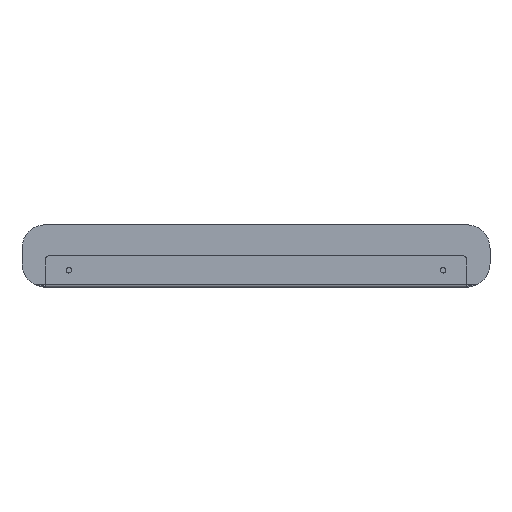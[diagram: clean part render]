
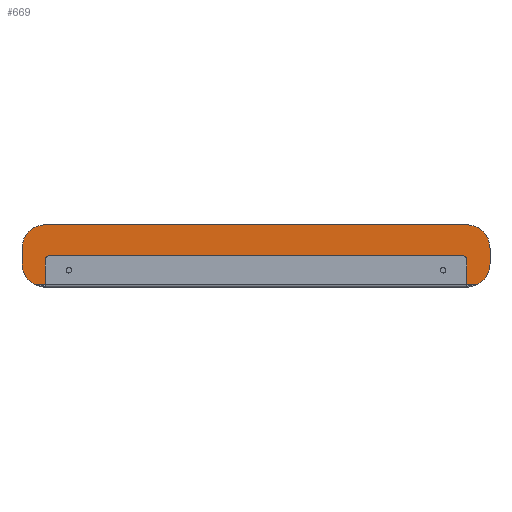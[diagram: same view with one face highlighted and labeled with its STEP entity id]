
A CAD part, top view. The second image highlights one B-rep face of the part: STEP entity #669.
In plain terms, the highlighted planar face has unit normal (0, 0, 1).
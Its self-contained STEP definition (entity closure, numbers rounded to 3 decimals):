
#50 = DIRECTION ( 'NONE',  ( 0., 1., 0. ) ) ;
#60 = EDGE_CURVE ( 'NONE', #2717, #1228, #2159, .T. ) ;
#70 = LINE ( 'NONE', #2095, #2726 ) ;
#97 = CARTESIAN_POINT ( 'NONE',  ( 270., -10., 0. ) ) ;
#118 = LINE ( 'NONE', #1409, #1471 ) ;
#201 = EDGE_CURVE ( 'NONE', #1708, #1174, #2586, .T. ) ;
#313 = EDGE_LOOP ( 'NONE', ( #498, #1961, #739, #1408, #1093, #3356, #1555, #2977 ) ) ;
#322 = DIRECTION ( 'NONE',  ( 0., 0., 1. ) ) ;
#382 = DIRECTION ( 'NONE',  ( 0., 0., -1. ) ) ;
#493 = DIRECTION ( 'NONE',  ( -1., 0., 0. ) ) ;
#498 = ORIENTED_EDGE ( 'NONE', *, *, #613, .T. ) ;
#534 = CIRCLE ( 'NONE', #1077, 30. ) ;
#598 = AXIS2_PLACEMENT_3D ( 'NONE', #870, #382, #3254 ) ;
#600 = CARTESIAN_POINT ( 'NONE',  ( -300., -10., 0. ) ) ;
#613 = EDGE_CURVE ( 'NONE', #2607, #1990, #717, .T. ) ;
#669 = ADVANCED_FACE ( 'NONE', ( #2397 ), #3159, .T. ) ;
#717 = LINE ( 'NONE', #1760, #1554 ) ;
#739 = ORIENTED_EDGE ( 'NONE', *, *, #2562, .T. ) ;
#784 = CARTESIAN_POINT ( 'NONE',  ( 283.077, -37., 0. ) ) ;
#813 = DIRECTION ( 'NONE',  ( 0., 0., -1. ) ) ;
#821 = CARTESIAN_POINT ( 'NONE',  ( 0., 0., 0. ) ) ;
#827 = VERTEX_POINT ( 'NONE', #968 ) ;
#870 = CARTESIAN_POINT ( 'NONE',  ( 270., 10., 0. ) ) ;
#933 = CARTESIAN_POINT ( 'NONE',  ( 270., 40., 0. ) ) ;
#968 = CARTESIAN_POINT ( 'NONE',  ( 300., 10., 0. ) ) ;
#1009 = DIRECTION ( 'NONE',  ( 1., 0., 0. ) ) ;
#1077 = AXIS2_PLACEMENT_3D ( 'NONE', #2357, #813, #1305 ) ;
#1093 = ORIENTED_EDGE ( 'NONE', *, *, #1456, .F. ) ;
#1094 = DIRECTION ( 'NONE',  ( -1., 0., 0. ) ) ;
#1174 = VERTEX_POINT ( 'NONE', #784 ) ;
#1228 = VERTEX_POINT ( 'NONE', #1669 ) ;
#1305 = DIRECTION ( 'NONE',  ( -1., 0., 0. ) ) ;
#1408 = ORIENTED_EDGE ( 'NONE', *, *, #60, .T. ) ;
#1409 = CARTESIAN_POINT ( 'NONE',  ( -300., -40., 0. ) ) ;
#1456 = EDGE_CURVE ( 'NONE', #1174, #1228, #3085, .T. ) ;
#1471 = VECTOR ( 'NONE', #1659, 1000. ) ;
#1554 = VECTOR ( 'NONE', #2515, 1000. ) ;
#1555 = ORIENTED_EDGE ( 'NONE', *, *, #3183, .T. ) ;
#1574 = CIRCLE ( 'NONE', #598, 30. ) ;
#1659 = DIRECTION ( 'NONE',  ( 0., -1., 0. ) ) ;
#1669 = CARTESIAN_POINT ( 'NONE',  ( -283.077, -37., 0. ) ) ;
#1708 = VERTEX_POINT ( 'NONE', #2661 ) ;
#1760 = CARTESIAN_POINT ( 'NONE',  ( 300., 40., 0. ) ) ;
#1800 = DIRECTION ( 'NONE',  ( 0., 0., 1. ) ) ;
#1961 = ORIENTED_EDGE ( 'NONE', *, *, #3146, .F. ) ;
#1990 = VERTEX_POINT ( 'NONE', #3223 ) ;
#2042 = AXIS2_PLACEMENT_3D ( 'NONE', #97, #2449, #1094 ) ;
#2095 = CARTESIAN_POINT ( 'NONE',  ( 300., -40., 0. ) ) ;
#2122 = CARTESIAN_POINT ( 'NONE',  ( 300., -37., 0. ) ) ;
#2159 = CIRCLE ( 'NONE', #3115, 30. ) ;
#2164 = CARTESIAN_POINT ( 'NONE',  ( -300., 10., 0. ) ) ;
#2357 = CARTESIAN_POINT ( 'NONE',  ( -270., 10., 0. ) ) ;
#2370 = CARTESIAN_POINT ( 'NONE',  ( -270., -10., 0. ) ) ;
#2397 = FACE_OUTER_BOUND ( 'NONE', #313, .T. ) ;
#2449 = DIRECTION ( 'NONE',  ( 0., 0., -1. ) ) ;
#2515 = DIRECTION ( 'NONE',  ( -1., 0., 0. ) ) ;
#2562 = EDGE_CURVE ( 'NONE', #2716, #2717, #118, .T. ) ;
#2578 = VECTOR ( 'NONE', #493, 1000. ) ;
#2586 = CIRCLE ( 'NONE', #2042, 30. ) ;
#2607 = VERTEX_POINT ( 'NONE', #933 ) ;
#2623 = EDGE_CURVE ( 'NONE', #2607, #827, #1574, .T. ) ;
#2661 = CARTESIAN_POINT ( 'NONE',  ( 300., -10., 0. ) ) ;
#2716 = VERTEX_POINT ( 'NONE', #2164 ) ;
#2717 = VERTEX_POINT ( 'NONE', #600 ) ;
#2726 = VECTOR ( 'NONE', #50, 1000. ) ;
#2764 = AXIS2_PLACEMENT_3D ( 'NONE', #821, #322, #3175 ) ;
#2977 = ORIENTED_EDGE ( 'NONE', *, *, #2623, .F. ) ;
#3085 = LINE ( 'NONE', #2122, #2578 ) ;
#3115 = AXIS2_PLACEMENT_3D ( 'NONE', #2370, #1800, #1009 ) ;
#3146 = EDGE_CURVE ( 'NONE', #2716, #1990, #534, .T. ) ;
#3159 = PLANE ( 'NONE',  #2764 ) ;
#3175 = DIRECTION ( 'NONE',  ( 1., 0., 0. ) ) ;
#3183 = EDGE_CURVE ( 'NONE', #1708, #827, #70, .T. ) ;
#3223 = CARTESIAN_POINT ( 'NONE',  ( -270., 40., 0. ) ) ;
#3254 = DIRECTION ( 'NONE',  ( -1., 0., 0. ) ) ;
#3356 = ORIENTED_EDGE ( 'NONE', *, *, #201, .F. ) ;
